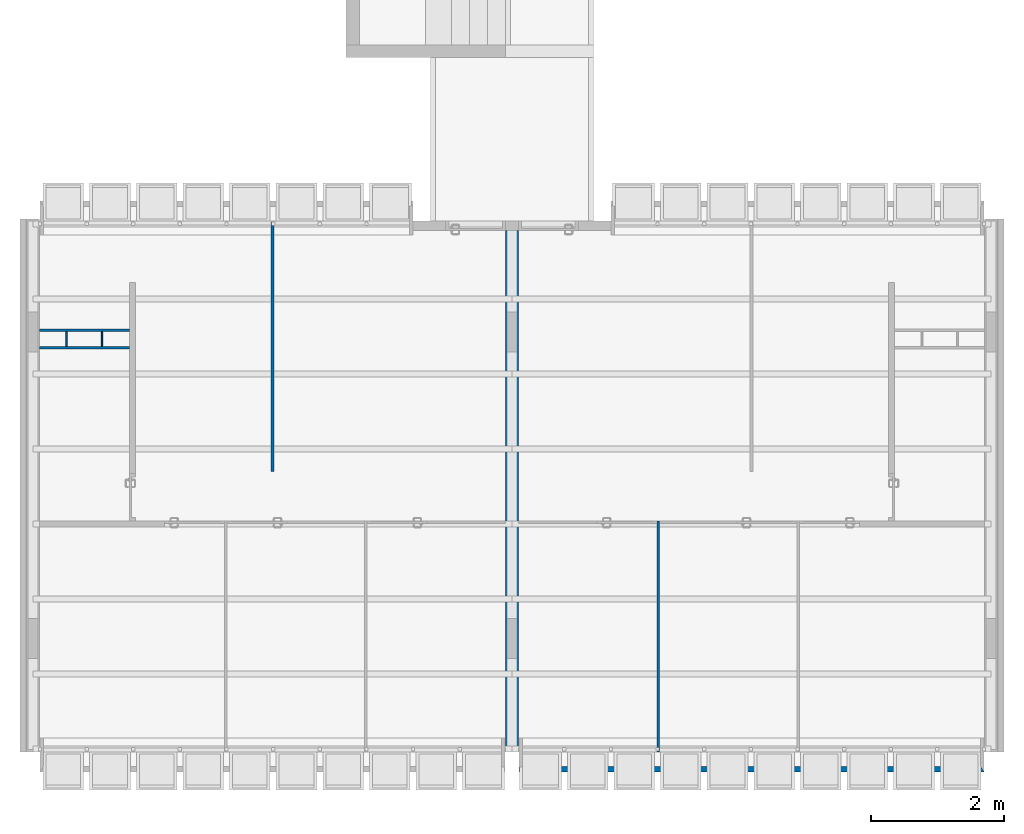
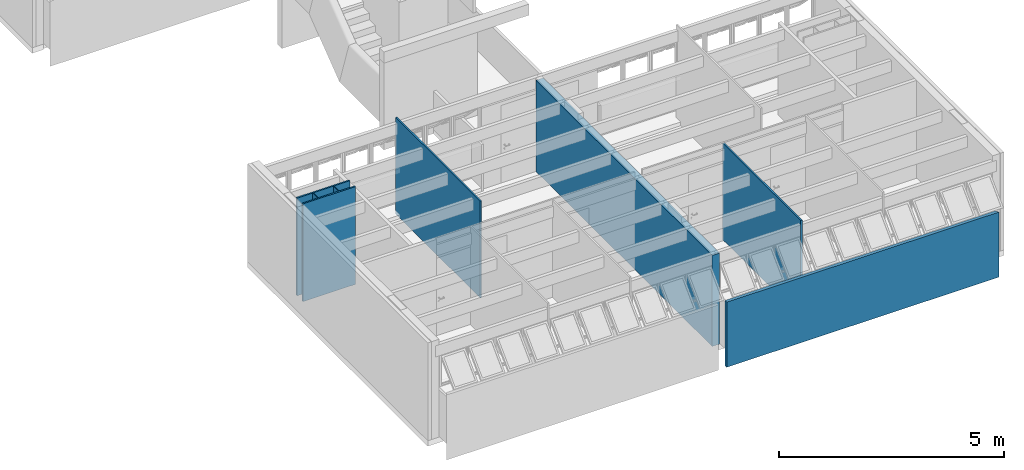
# One storey, part 8 of 38: 8 walls.
"""IFC2X3 building model written with IfcOpenShell, lengths in millimetres."""

from ifc_helpers import new_model, entity, si_unit, converted_unit, derived_unit, money_unit, direction, frame, origin_with_axes, place, context, subcontext, project, spatial, polyline, outline, extrude, material, layer, layer_set, layer_usage, type_object, element, save


model = new_model("IFC2X3")

# Units and contexts
model_context = context("Model", 3, precision=0.01, world=origin_with_axes(), true_north=direction((0.0, 1.0)))
body_context = subcontext(model_context, "Body", "Model", "MODEL_VIEW")
ifc_project = project(units=[si_unit("LENGTHUNIT", "METRE", prefix="MILLI"), si_unit("AREAUNIT", "SQUARE_METRE"), si_unit("VOLUMEUNIT", "CUBIC_METRE"), converted_unit("PLANEANGLEUNIT", "DEGREE", entity("IfcPlaneAngleMeasure", 0.0174532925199), si_unit("PLANEANGLEUNIT", "RADIAN"), dimensions=[0, 0, 0, 0, 0, 0, 0]), money_unit("USD"), converted_unit("TIMEUNIT", "Year", entity("IfcTimeMeasure", 31556926.0), si_unit("TIMEUNIT", "SECOND"), dimensions=[0, 0, 1, 0, 0, 0, 0]), si_unit("MASSUNIT", "GRAM", prefix="KILO"), si_unit("THERMODYNAMICTEMPERATUREUNIT", "DEGREE_CELSIUS"), si_unit("LUMINOUSINTENSITYUNIT", "LUMEN"), si_unit("ENERGYUNIT", "JOULE", prefix="MEGA"), derived_unit("THERMALCONDUCTANCEUNIT", [(si_unit("POWERUNIT", "WATT"), 1), (si_unit("LENGTHUNIT", "METRE"), -1), (si_unit("THERMODYNAMICTEMPERATUREUNIT", "KELVIN"), -1)]), derived_unit("SPECIFICHEATCAPACITYUNIT", [(si_unit("ENERGYUNIT", "JOULE"), 1), (si_unit("MASSUNIT", "GRAM", prefix="KILO"), -1), (si_unit("THERMODYNAMICTEMPERATUREUNIT", "KELVIN"), -1)]), derived_unit("MASSDENSITYUNIT", [(si_unit("MASSUNIT", "GRAM", prefix="KILO"), 1), (si_unit("VOLUMEUNIT", "CUBIC_METRE"), -1)])], contexts=[model_context])

# Site, building, storey
site_placement = place(None, origin_with_axes())
site = spatial("IfcSite", under=ifc_project, at=site_placement, Name="Local", CompositionType="ELEMENT")
building_placement = place(site_placement, origin_with_axes())
building = spatial("IfcBuilding", under=site, at=building_placement, Name="Construção", CompositionType="ELEMENT")
storey_placement = place(building_placement, frame((0.0, 0.0, 2650.0), z_axis=(0.0, 0.0, 1.0), x_axis=(1.0, 0.0, 0.0)))
storey = spatial("IfcBuildingStorey", under=building, at=storey_placement, Name="Segundo Pavimento", CompositionType="ELEMENT", Elevation=2650.0)

# Walls
ifc_material_1 = material(Name="GENÉRICO - VEDAÇÃO EXTERNA")
ifc_layer_1 = layer(ifc_material_1, 190.0, ventilated="UNKNOWN")
ifc_layer_set_1 = layer_set([ifc_layer_1], Name="GENÉRICO - VEDAÇÃO EXTERNA 190")
ifc_layer_usage_1 = layer_usage(ifc_layer_set_1, "AXIS2", "NEGATIVE", 0.0)
wall_type_1 = type_object("IfcWallType", Name="GENÉRICO - VEDAÇÃO EXTERNA 190", PredefinedType="NOTDEFINED")
wall_1_placement = place(storey_placement, frame((7480.0, 8125.0, 0.0), z_axis=(0.0, 0.0, 1.0), x_axis=(0.0, -1.0, 0.0)))
element("IfcWallStandardCase", 1, at=wall_1_placement, inside=storey, type_object=wall_type_1, material=ifc_layer_usage_1, Name="CIRC2-PAREDE-026", context=body_context, shape_type="SweptSolid", body=[
    extrude(outline(polyline([(0.0, -190.0), (7825.0, -190.0), (7825.0, 0.0), (0.0, 0.0), (0.0, -190.0)])), origin_with_axes(), (0.0, 0.0, 1.0), 2470.0),
])
ifc_layer_2 = layer(ifc_material_1, 40.0, ventilated="UNKNOWN")
ifc_layer_set_2 = layer_set([ifc_layer_2], Name="GENÉRICO - VEDAÇÃO EXTERNA 40")
ifc_layer_usage_2 = layer_usage(ifc_layer_set_2, "AXIS2", "NEGATIVE", 40.0)
wall_type_2 = type_object("IfcWallType", Name="GENÉRICO - VEDAÇÃO EXTERNA 40", PredefinedType="NOTDEFINED")
wall_2_placement = place(storey_placement, frame((3810.0, 4505.0, 0.0), z_axis=(0.0, 0.0, 1.0), x_axis=(0.0, 1.0, 0.0)))
element("IfcWallStandardCase", 2, at=wall_2_placement, inside=storey, type_object=wall_type_2, material=ifc_layer_usage_2, Name="APTO5-PAREDE-003", context=body_context, shape_type="SweptSolid", body=[
    extrude(outline(polyline([(0.0, 0.0), (3750.0, 0.0), (3750.0, 40.0), (0.0, 40.0), (0.0, 0.0)])), origin_with_axes(), (0.0, 0.0, 1.0), 2620.0),
])
ifc_layer_usage_3 = layer_usage(ifc_layer_set_2, "AXIS2", "NEGATIVE", 40.0)
wall_3_placement = place(storey_placement, frame((290.0, 6345.0, 0.0), z_axis=(0.0, 0.0, 1.0), x_axis=(1.0, 0.0, 0.0)))
element("IfcWallStandardCase", 3, at=wall_3_placement, inside=storey, type_object=wall_type_2, material=ifc_layer_usage_3, Name="APTO5-PAREDE-011", context=body_context, shape_type="SweptSolid", body=[
    extrude(outline(polyline([(0.0, 0.0), (1350.0, 0.0), (1350.0, 40.0), (0.0, 40.0), (0.0, 0.0)])), origin_with_axes(), (0.0, 0.0, 1.0), 2650.0),
])
ifc_layer_usage_4 = layer_usage(ifc_layer_set_2, "AXIS2", "NEGATIVE", 40.0)
wall_4_placement = place(storey_placement, frame((1730.0, 6645.0, 0.0), z_axis=(0.0, 0.0, 1.0), x_axis=(-1.0, 0.0, 0.0)))
element("IfcWallStandardCase", 4, at=wall_4_placement, inside=storey, type_object=wall_type_2, material=ifc_layer_usage_4, Name="APTO5-PAREDE-010", context=body_context, shape_type="SweptSolid", body=[
    extrude(outline(polyline([(90.0, 0.0), (1440.0, 0.0), (1440.0, 40.0), (90.0, 40.0), (90.0, 0.0)])), origin_with_axes(), (0.0, 0.0, 1.0), 2650.0),
])
ifc_layer_usage_5 = layer_usage(ifc_layer_set_2, "AXIS2", "POSITIVE", 0.0)
wall_5_placement = place(storey_placement, frame((9560.0, 3765.0, 0.0), z_axis=(0.0, 0.0, 1.0), x_axis=(0.0, -1.0, 0.0)))
element("IfcWallStandardCase", 5, at=wall_5_placement, inside=storey, type_object=wall_type_2, material=ifc_layer_usage_5, Name="APTO6-PAREDE-005", context=body_context, shape_type="SweptSolid", body=[
    extrude(outline(polyline([(0.0, 0.0), (3465.0, 0.0), (3465.0, 40.0), (0.0, 40.0), (0.0, 0.0)])), origin_with_axes(), (0.0, 0.0, 1.0), 2620.0),
])
ifc_layer_3 = layer(ifc_material_1, 20.0, ventilated="UNKNOWN")
ifc_layer_set_3 = layer_set([ifc_layer_3], Name="GENÉRICO - VEDAÇÃO EXTERNA 20")
ifc_layer_usage_6 = layer_usage(ifc_layer_set_3, "AXIS2", "NEGATIVE", 20.0)
wall_type_3 = type_object("IfcWallType", Name="GENÉRICO - VEDAÇÃO EXTERNA 20", PredefinedType="NOTDEFINED")
wall_6_placement = place(storey_placement, frame((710.0, 6345.0, 0.0), z_axis=(0.0, 0.0, 1.0), x_axis=(0.0, 1.0, 0.0)))
element("IfcWallStandardCase", 6, at=wall_6_placement, inside=storey, type_object=wall_type_3, material=ifc_layer_usage_6, Name="APTO5-PAREDE-009", context=body_context, shape_type="SweptSolid", body=[
    extrude(outline(polyline([(40.0, 0.0), (260.0, 0.0), (260.0, 20.0), (40.0, 20.0), (40.0, 0.0)])), origin_with_axes(), (0.0, 0.0, 1.0), 2650.0),
])
ifc_layer_usage_7 = layer_usage(ifc_layer_set_3, "AXIS2", "NEGATIVE", 0.0)
wall_7_placement = place(storey_placement, frame((1240.0, 6645.0, 0.0), z_axis=(0.0, 0.0, 1.0), x_axis=(0.0, -1.0, 0.0)))
element("IfcWallStandardCase", 7, at=wall_7_placement, inside=storey, type_object=wall_type_3, material=ifc_layer_usage_7, Name="APTO5-PAREDE-008", context=body_context, shape_type="SweptSolid", body=[
    extrude(outline(polyline([(40.0, -20.0), (260.0, -20.0), (260.0, 0.0), (40.0, 0.0), (40.0, -20.0)])), origin_with_axes(), (0.0, 0.0, 1.0), 2650.0),
])
ifc_material_2 = material(Name="Concreto Armado Moldado in Loco - Estrutural")
ifc_layer_4 = layer(ifc_material_2, 80.0, ventilated="UNKNOWN")
ifc_layer_set_4 = layer_set([ifc_layer_4], Name="Concreto Armado Moldado in Loco - Estrutural 80")
ifc_layer_usage_8 = layer_usage(ifc_layer_set_4, "AXIS2", "NEGATIVE", 80.0)
wall_type_4 = type_object("IfcWallType", Name="Concreto Armado Moldado in Loco - Estrutural 80", PredefinedType="NOTDEFINED")
wall_8_placement = place(storey_placement, frame((14470.0, 80.0, -450.0), z_axis=(0.0, 0.0, 1.0), x_axis=(-1.0, 0.0, 0.0)))
element("IfcWallStandardCase", 8, at=wall_8_placement, inside=storey, type_object=wall_type_4, material=ifc_layer_usage_8, Name="APTO6-PAREDE-015", context=body_context, shape_type="SweptSolid", body=[
    extrude(outline(polyline([(50.0, 0.0), (6980.0, 0.0), (6980.0, 80.0), (0.0, 80.0), (50.0, 0.0)])), origin_with_axes(), (0.0, 0.0, 1.0), 1765.0),
])

save(model, "model.ifc")
